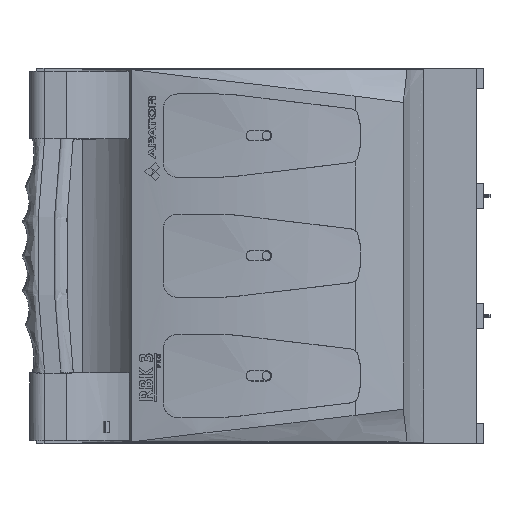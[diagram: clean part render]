
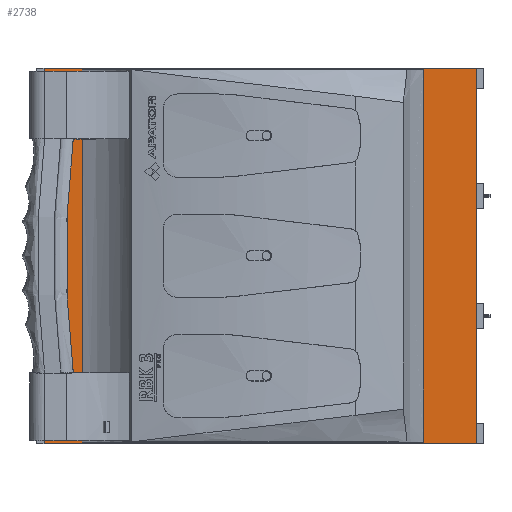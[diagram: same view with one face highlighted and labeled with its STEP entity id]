
A CAD part, top view. The second image highlights one B-rep face of the part: STEP entity #2738.
In plain terms, the highlighted planar face has unit normal (0, 0, 1).
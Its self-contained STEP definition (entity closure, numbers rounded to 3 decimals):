
#2738=ADVANCED_FACE('',(#6179,#6180),#3939,.F.);
#3939=PLANE('',#23894);
#6179=FACE_BOUND('',#6324,.T.);
#6180=FACE_BOUND('',#6325,.T.);
#6324=EDGE_LOOP('',(#8284,#8285,#8286,#8287));
#6325=EDGE_LOOP('',(#8288,#8289,#8290,#8291));
#8284=ORIENTED_EDGE('',*,*,#16655,.F.);
#8285=ORIENTED_EDGE('',*,*,#17345,.T.);
#8286=ORIENTED_EDGE('',*,*,#16743,.T.);
#8287=ORIENTED_EDGE('',*,*,#17346,.F.);
#8288=ORIENTED_EDGE('',*,*,#17347,.T.);
#8289=ORIENTED_EDGE('',*,*,#17348,.F.);
#8290=ORIENTED_EDGE('',*,*,#17349,.F.);
#8291=ORIENTED_EDGE('',*,*,#17350,.T.);
#14370=VERTEX_POINT('',#30249);
#14371=VERTEX_POINT('',#30251);
#14458=VERTEX_POINT('',#30463);
#14459=VERTEX_POINT('',#30465);
#15046=VERTEX_POINT('',#33536);
#15047=VERTEX_POINT('',#33537);
#15048=VERTEX_POINT('',#33539);
#15049=VERTEX_POINT('',#33541);
#16655=EDGE_CURVE('',#14370,#14371,#20056,.T.);
#16743=EDGE_CURVE('',#14459,#14458,#20091,.T.);
#17345=EDGE_CURVE('',#14370,#14459,#20186,.T.);
#17346=EDGE_CURVE('',#14371,#14458,#20187,.T.);
#17347=EDGE_CURVE('',#15046,#15047,#20188,.T.);
#17348=EDGE_CURVE('',#15048,#15047,#20189,.T.);
#17349=EDGE_CURVE('',#15049,#15048,#20190,.T.);
#17350=EDGE_CURVE('',#15049,#15046,#20191,.T.);
#20056=LINE('',#30250,#21596);
#20091=LINE('',#30464,#21631);
#20186=LINE('',#33533,#21730);
#20187=LINE('',#33534,#21731);
#20188=LINE('',#33535,#21732);
#20189=LINE('',#33538,#21733);
#20190=LINE('',#33540,#21734);
#20191=LINE('',#33542,#21735);
#21596=VECTOR('',#25215,1.);
#21631=VECTOR('',#25344,1.);
#21730=VECTOR('',#25545,1.);
#21731=VECTOR('',#25546,1.);
#21732=VECTOR('',#25547,1.);
#21733=VECTOR('',#25548,1.);
#21734=VECTOR('',#25549,1.);
#21735=VECTOR('',#25550,1.);
#23894=AXIS2_PLACEMENT_3D('',#33543,#25551,#25552);
#25215=DIRECTION('',(1.,0.,0.));
#25344=DIRECTION('',(1.,0.,0.));
#25545=DIRECTION('',(0.,-1.,0.));
#25546=DIRECTION('',(0.,-1.,0.));
#25547=DIRECTION('',(-1.,0.,0.));
#25548=DIRECTION('',(0.,-1.,0.));
#25549=DIRECTION('',(-1.,0.,0.));
#25550=DIRECTION('',(0.,-1.,0.));
#25551=DIRECTION('',(0.,0.,-1.));
#25552=DIRECTION('',(0.,1.,0.));
#30249=CARTESIAN_POINT('',(-155.5,125.,84.5));
#30250=CARTESIAN_POINT('',(-127.,125.,84.5));
#30251=CARTESIAN_POINT('',(132.5,125.,84.5));
#30463=CARTESIAN_POINT('',(132.5,-125.,84.5));
#30464=CARTESIAN_POINT('',(93.,-125.,84.5));
#30465=CARTESIAN_POINT('',(-155.5,-125.,84.5));
#33533=CARTESIAN_POINT('',(-155.5,120.5,84.5));
#33534=CARTESIAN_POINT('',(132.5,120.5,84.5));
#33535=CARTESIAN_POINT('',(-17.275,-124.,84.5));
#33536=CARTESIAN_POINT('',(97.261,-124.,84.5));
#33537=CARTESIAN_POINT('',(-129.969,-124.,84.5));
#33538=CARTESIAN_POINT('',(-129.969,120.5,84.5));
#33539=CARTESIAN_POINT('',(-129.969,124.,84.5));
#33540=CARTESIAN_POINT('',(93.,124.,84.5));
#33541=CARTESIAN_POINT('',(97.261,124.,84.5));
#33542=CARTESIAN_POINT('',(97.261,129.232,84.5));
#33543=CARTESIAN_POINT('',(93.,120.5,84.5));
